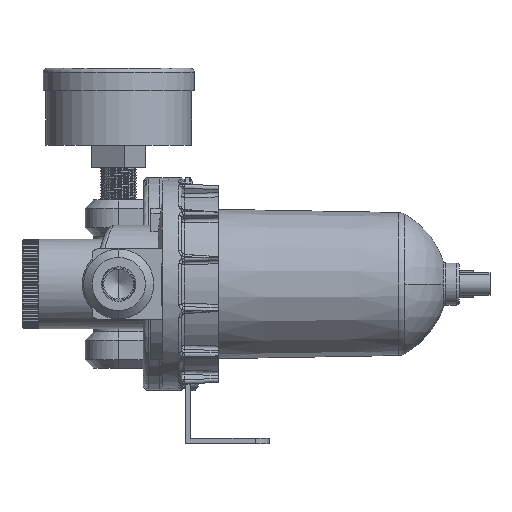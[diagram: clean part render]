
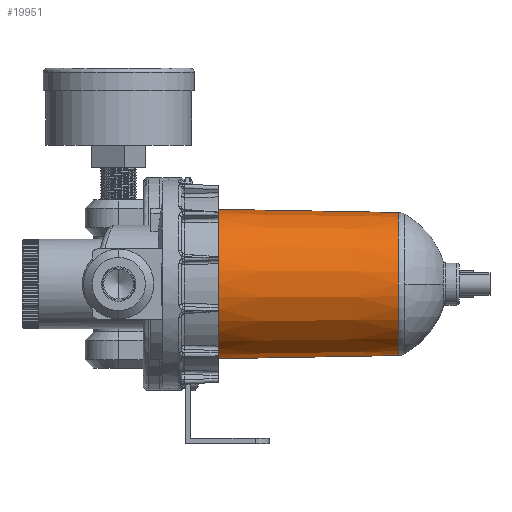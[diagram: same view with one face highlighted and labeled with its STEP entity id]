
A CAD part, left-side view. The second image highlights one B-rep face of the part: STEP entity #19951.
In plain terms, the highlighted conical face has half-angle 1 degrees and reference radius 25.5 mm.
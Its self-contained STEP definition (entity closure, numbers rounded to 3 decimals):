
#839 = CIRCLE ( 'NONE', #7032, 26.643 ) ;
#4206 = CARTESIAN_POINT ( 'NONE',  ( 0., 0., 0. ) ) ;
#4666 = FACE_OUTER_BOUND ( 'NONE', #32166, .T. ) ;
#5602 = VERTEX_POINT ( 'NONE', #12943 ) ;
#5772 = VERTEX_POINT ( 'NONE', #12800 ) ;
#7032 = AXIS2_PLACEMENT_3D ( 'NONE', #19912, #15840, #44131 ) ;
#7367 = DIRECTION ( 'NONE',  ( 0., 0., -1. ) ) ;
#7510 = DIRECTION ( 'NONE',  ( 0., 1., 0. ) ) ;
#8566 = DIRECTION ( 'NONE',  ( 0., 0., 1. ) ) ;
#12800 = CARTESIAN_POINT ( 'NONE',  ( 0., 1.155, -25.52 ) ) ;
#12943 = CARTESIAN_POINT ( 'NONE',  ( 0., 65.5, 26.643 ) ) ;
#13048 = CARTESIAN_POINT ( 'NONE',  ( 0., 0., -25.5 ) ) ;
#13461 = ORIENTED_EDGE ( 'NONE', *, *, #29952, .F. ) ;
#14365 = EDGE_CURVE ( 'NONE', #5772, #33005, #16269, .T. ) ;
#15840 = DIRECTION ( 'NONE',  ( 0., 1., 0. ) ) ;
#16269 = LINE ( 'NONE', #13048, #22233 ) ;
#17294 = LINE ( 'NONE', #40934, #37852 ) ;
#19471 = VERTEX_POINT ( 'NONE', #27156 ) ;
#19547 = AXIS2_PLACEMENT_3D ( 'NONE', #41908, #7510, #7367 ) ;
#19912 = CARTESIAN_POINT ( 'NONE',  ( 0., 65.5, 0. ) ) ;
#19951 = ADVANCED_FACE ( 'NONE', ( #4666 ), #38260, .T. ) ;
#21171 = EDGE_CURVE ( 'NONE', #5602, #33005, #839, .T. ) ;
#22233 = VECTOR ( 'NONE', #23480, 1000. ) ;
#22672 = DIRECTION ( 'NONE',  ( 0., 1., 0. ) ) ;
#23480 = DIRECTION ( 'NONE',  ( 0., 1., -0.017 ) ) ;
#27156 = CARTESIAN_POINT ( 'NONE',  ( 0., 1.155, 25.52 ) ) ;
#27533 = CARTESIAN_POINT ( 'NONE',  ( 0., 65.5, -26.643 ) ) ;
#29952 = EDGE_CURVE ( 'NONE', #19471, #5602, #17294, .T. ) ;
#30764 = AXIS2_PLACEMENT_3D ( 'NONE', #4206, #22672, #8566 ) ;
#32166 = EDGE_LOOP ( 'NONE', ( #43180, #39708, #38602, #13461 ) ) ;
#33005 = VERTEX_POINT ( 'NONE', #27533 ) ;
#33963 = DIRECTION ( 'NONE',  ( 0., 1., 0.017 ) ) ;
#37852 = VECTOR ( 'NONE', #33963, 1000. ) ;
#38260 = CONICAL_SURFACE ( 'NONE', #30764, 25.5, 0.017 ) ;
#38602 = ORIENTED_EDGE ( 'NONE', *, *, #21171, .F. ) ;
#38766 = CIRCLE ( 'NONE', #19547, 25.52 ) ;
#39064 = EDGE_CURVE ( 'NONE', #19471, #5772, #38766, .T. ) ;
#39708 = ORIENTED_EDGE ( 'NONE', *, *, #14365, .T. ) ;
#40934 = CARTESIAN_POINT ( 'NONE',  ( 0., 0., 25.5 ) ) ;
#41908 = CARTESIAN_POINT ( 'NONE',  ( 0., 1.155, 0. ) ) ;
#43180 = ORIENTED_EDGE ( 'NONE', *, *, #39064, .T. ) ;
#44131 = DIRECTION ( 'NONE',  ( 0., 0., 1. ) ) ;
